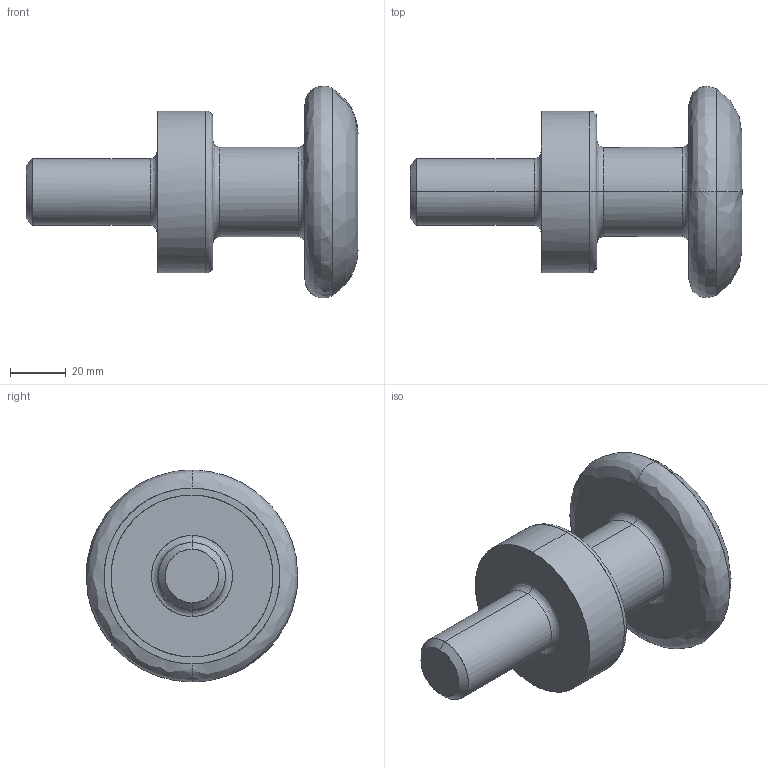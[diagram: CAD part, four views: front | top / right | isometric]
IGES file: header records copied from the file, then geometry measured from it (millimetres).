
Global section: file name: E:\UnigraphicsGraphicData\MISUMI_PRESS-PARTS\IGES\3d_chnl24_03548_r00.igs; native system: NX V5.0; preprocessor: UGS NX IGES V5.0; author: MISUMI; date: 20110105.160221; units: millimetre
Bounding box: 119 x 75.9 x 75.98 mm (x, y, z)
Surface area: 25684.5 mm2 (no closed solid volume)
Topology: 0 solids, 0 shells, 32 faces, 236 edges, 236 vertices
Faces by surface type: bspline 32
